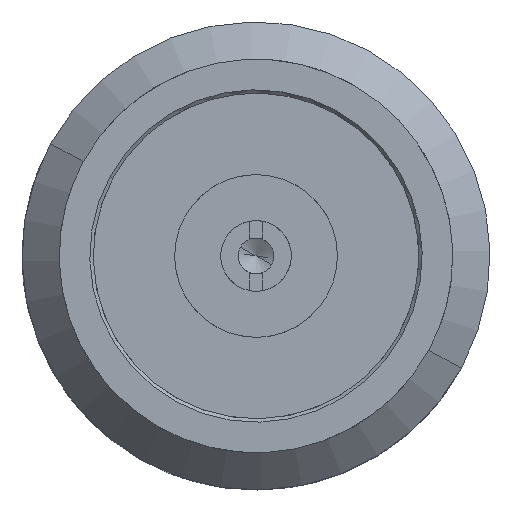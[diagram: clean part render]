
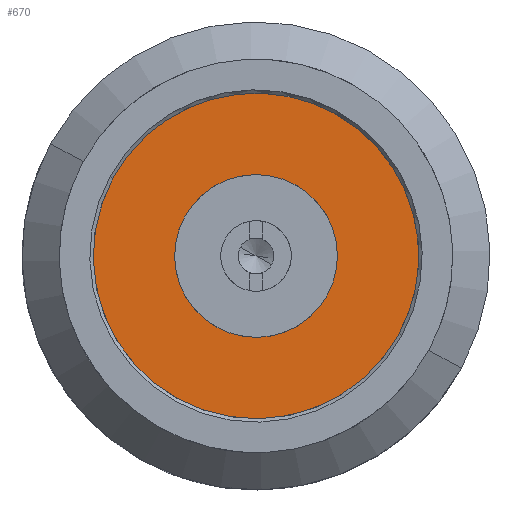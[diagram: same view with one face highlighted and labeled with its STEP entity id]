
A CAD part, left-side view. The second image highlights one B-rep face of the part: STEP entity #670.
In plain terms, the highlighted planar face has unit normal (-1, 0, 0).
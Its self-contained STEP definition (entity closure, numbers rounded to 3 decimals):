
#294=CARTESIAN_POINT('Axis2P3D Location',(3.,-0.265,0.)) ;
#567=CARTESIAN_POINT('Vertex',(3.,1.053,0.575)) ;
#570=CARTESIAN_POINT('Axis2P3D Location',(3.,0.,0.)) ;
#574=CARTESIAN_POINT('Vertex',(3.,-1.053,-0.575)) ;
#594=CARTESIAN_POINT('Axis2P3D Location',(3.,0.,0.)) ;
#607=CARTESIAN_POINT('Control Point',(3.,-2.106,-1.151)) ;
#608=CARTESIAN_POINT('Control Point',(3.,-1.997,-1.35)) ;
#609=CARTESIAN_POINT('Control Point',(3.,-1.864,-1.537)) ;
#610=CARTESIAN_POINT('Control Point',(3.,-1.71,-1.707)) ;
#611=CARTESIAN_POINT('Control Point',(3.,-1.363,-2.008)) ;
#612=CARTESIAN_POINT('Control Point',(3.,-0.956,-2.219)) ;
#613=CARTESIAN_POINT('Control Point',(3.,-0.741,-2.3)) ;
#614=CARTESIAN_POINT('Control Point',(3.,-0.296,-2.409)) ;
#615=CARTESIAN_POINT('Control Point',(3.,0.163,-2.411)) ;
#616=CARTESIAN_POINT('Control Point',(3.,0.391,-2.384)) ;
#617=CARTESIAN_POINT('Control Point',(3.,0.837,-2.278)) ;
#618=CARTESIAN_POINT('Control Point',(3.,1.246,-2.07)) ;
#619=CARTESIAN_POINT('Control Point',(3.,1.437,-1.942)) ;
#620=CARTESIAN_POINT('Control Point',(3.,1.785,-1.644)) ;
#621=CARTESIAN_POINT('Control Point',(3.,2.054,-1.273)) ;
#622=CARTESIAN_POINT('Control Point',(3.,2.166,-1.072)) ;
#623=CARTESIAN_POINT('Control Point',(3.,2.339,-0.647)) ;
#624=CARTESIAN_POINT('Control Point',(3.,2.409,-0.194)) ;
#625=CARTESIAN_POINT('Control Point',(3.,2.416,0.036)) ;
#626=CARTESIAN_POINT('Control Point',(3.,2.384,0.407)) ;
#627=CARTESIAN_POINT('Control Point',(3.,2.282,0.763)) ;
#628=CARTESIAN_POINT('Control Point',(3.,2.233,0.897)) ;
#629=CARTESIAN_POINT('Control Point',(3.,2.174,1.026)) ;
#630=CARTESIAN_POINT('Control Point',(3.,2.106,1.151)) ;
#631=CARTESIAN_POINT('Vertex',(3.,-2.106,-1.151)) ;
#633=CARTESIAN_POINT('Vertex',(3.,2.106,1.151)) ;
#637=CARTESIAN_POINT('Control Point',(3.,2.106,1.151)) ;
#638=CARTESIAN_POINT('Control Point',(3.,1.997,1.35)) ;
#639=CARTESIAN_POINT('Control Point',(3.,1.864,1.537)) ;
#640=CARTESIAN_POINT('Control Point',(3.,1.71,1.707)) ;
#641=CARTESIAN_POINT('Control Point',(3.,1.363,2.008)) ;
#642=CARTESIAN_POINT('Control Point',(3.,0.956,2.219)) ;
#643=CARTESIAN_POINT('Control Point',(3.,0.741,2.3)) ;
#644=CARTESIAN_POINT('Control Point',(3.,0.296,2.409)) ;
#645=CARTESIAN_POINT('Control Point',(3.,-0.163,2.411)) ;
#646=CARTESIAN_POINT('Control Point',(3.,-0.391,2.384)) ;
#647=CARTESIAN_POINT('Control Point',(3.,-0.837,2.278)) ;
#648=CARTESIAN_POINT('Control Point',(3.,-1.246,2.07)) ;
#649=CARTESIAN_POINT('Control Point',(3.,-1.437,1.942)) ;
#650=CARTESIAN_POINT('Control Point',(3.,-1.785,1.644)) ;
#651=CARTESIAN_POINT('Control Point',(3.,-2.054,1.273)) ;
#652=CARTESIAN_POINT('Control Point',(3.,-2.166,1.072)) ;
#653=CARTESIAN_POINT('Control Point',(3.,-2.339,0.647)) ;
#654=CARTESIAN_POINT('Control Point',(3.,-2.409,0.194)) ;
#655=CARTESIAN_POINT('Control Point',(3.,-2.416,-0.036)) ;
#656=CARTESIAN_POINT('Control Point',(3.,-2.384,-0.407)) ;
#657=CARTESIAN_POINT('Control Point',(3.,-2.282,-0.763)) ;
#658=CARTESIAN_POINT('Control Point',(3.,-2.233,-0.897)) ;
#659=CARTESIAN_POINT('Control Point',(3.,-2.174,-1.026)) ;
#660=CARTESIAN_POINT('Control Point',(3.,-2.106,-1.151)) ;
#295=DIRECTION('Axis2P3D Direction',(1.,0.,0.)) ;
#296=DIRECTION('Axis2P3D XDirection',(0.,1.,0.)) ;
#571=DIRECTION('Axis2P3D Direction',(1.,0.,0.)) ;
#595=DIRECTION('Axis2P3D Direction',(1.,0.,0.)) ;
#297=AXIS2_PLACEMENT_3D('Plane Axis2P3D',#294,#295,#296) ;
#572=AXIS2_PLACEMENT_3D('Circle Axis2P3D',#570,#571,$) ;
#596=AXIS2_PLACEMENT_3D('Circle Axis2P3D',#594,#595,$) ;
#663=ORIENTED_EDGE('',*,*,#635,.F.) ;
#664=ORIENTED_EDGE('',*,*,#661,.F.) ;
#667=ORIENTED_EDGE('',*,*,#598,.T.) ;
#668=ORIENTED_EDGE('',*,*,#576,.T.) ;
#669=FACE_BOUND('',#666,.T.) ;
#670=ADVANCED_FACE('',(#665,#669),#298,.F.) ;
#606=B_SPLINE_CURVE_WITH_KNOTS('',5,(#607,#608,#609,#610,#611,#612,#613,#614,#615,#616,#617,#618,#619,#620,#621,#622,#623,#624,#625,#626,#627,#628,#629,#630),.UNSPECIFIED.,.F.,.U.,(6,3,3,3,3,3,3,6),(0.,1.61,3.22,4.83,6.44,8.05,9.66,10.663),.UNSPECIFIED.) ;
#636=B_SPLINE_CURVE_WITH_KNOTS('',5,(#637,#638,#639,#640,#641,#642,#643,#644,#645,#646,#647,#648,#649,#650,#651,#652,#653,#654,#655,#656,#657,#658,#659,#660),.UNSPECIFIED.,.F.,.U.,(6,3,3,3,3,3,3,6),(0.,1.61,3.22,4.83,6.44,8.05,9.66,10.663),.UNSPECIFIED.) ;
#573=CIRCLE('generated circle',#572,1.2) ;
#597=CIRCLE('generated circle',#596,1.2) ;
#576=EDGE_CURVE('',#575,#568,#573,.T.) ;
#598=EDGE_CURVE('',#568,#575,#597,.T.) ;
#635=EDGE_CURVE('',#632,#634,#606,.T.) ;
#661=EDGE_CURVE('',#634,#632,#636,.T.) ;
#662=EDGE_LOOP('',(#663,#664)) ;
#666=EDGE_LOOP('',(#667,#668)) ;
#665=FACE_OUTER_BOUND('',#662,.T.) ;
#298=PLANE('Plane',#297) ;
#568=VERTEX_POINT('',#567) ;
#575=VERTEX_POINT('',#574) ;
#632=VERTEX_POINT('',#631) ;
#634=VERTEX_POINT('',#633) ;
